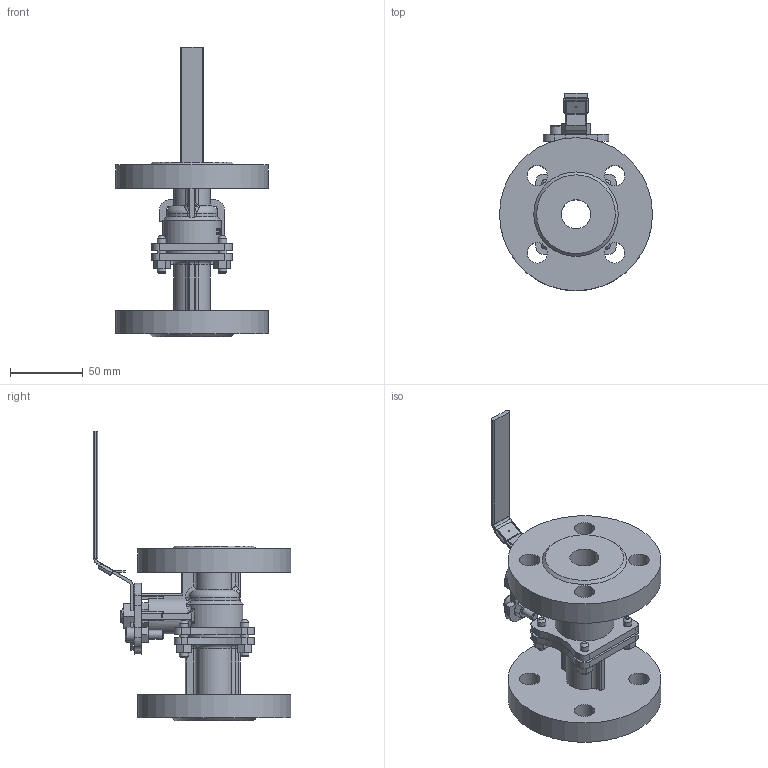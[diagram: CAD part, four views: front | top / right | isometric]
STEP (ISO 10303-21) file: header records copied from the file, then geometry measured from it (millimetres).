
FILE_DESCRIPTION(('STEP AP242'), '1');
FILE_NAME('BV3232P(2pc)-FP-F-ISO-H Êðàí øàðîâîé DN.ru Äó20 Ðó40', '', ('UNSPECIFIED'), ('UNSPECIFIED'), 'C3D Converter', 'C3D Toolkit', '');
FILE_SCHEMA(('AP242_MANAGED_MODEL_BASED_3D_ENGINEERING_MIM_LF { 1 0 10303 442 1 1 4 }'));
Length unit declared in the file: millimetre
Products named in the file (1): BV3232P(2pc)-FP-F-ISO-H
Bounding box: 105 x 135.5 x 198.86 mm (x, y, z)
Volume: 340194.2 mm3; surface area: 93888.7 mm2
Topology: 2 solids, 2 shells, 715 faces, 1803 edges, 1124 vertices
Faces by surface type: plane 365, cylinder 156, cone 99, bspline 68, torus 21, sphere 6
Full cylindrical faces by diameter (mm): 1 x1, 5 x1, 6 x14, 8 x1, 8.376 x3, 10 x1, 13 x1, 14 x8, 15 x1, 20 x2, 21.089 x2, 30 x2, 38 x1, 105 x2
Entity records: 36743 total; most frequent: CARTESIAN_POINT 17009, ORIENTED_EDGE 3446, DIRECTION 3132, EDGE_CURVE 1723, AXIS2_PLACEMENT_3D 1134, VERTEX_POINT 1115, EDGE_LOOP 874, LINE 864
